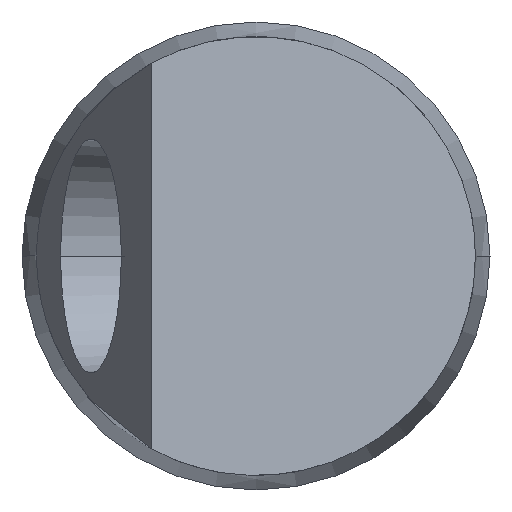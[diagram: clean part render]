
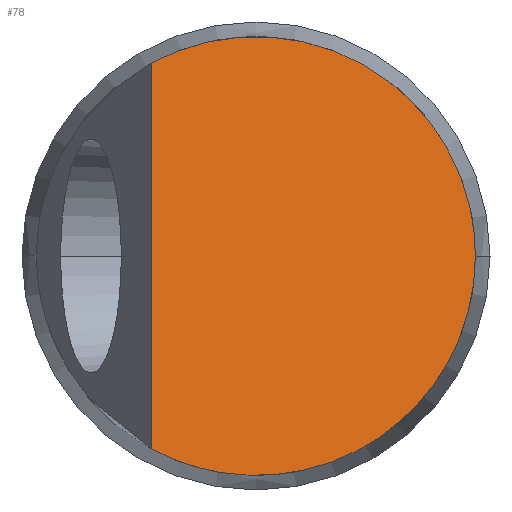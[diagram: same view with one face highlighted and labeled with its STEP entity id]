
A CAD part, left-side view. The second image highlights one B-rep face of the part: STEP entity #78.
In plain terms, the highlighted planar face has unit normal (-0.966, -0.259, 0).
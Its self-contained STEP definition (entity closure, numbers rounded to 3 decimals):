
#78=ADVANCED_FACE('',(#133),#132,.T.);
#132=PLANE('',#363);
#133=FACE_OUTER_BOUND('',#364,.T.);
#360=CARTESIAN_POINT('',(106.854,182.723,-22.889));
#361=DIRECTION('',(-0.966,-0.259,0.));
#362=DIRECTION('',(0.259,-0.966,0.));
#363=AXIS2_PLACEMENT_3D('',#360,#361,#362);
#364=EDGE_LOOP('',(#560,#561,#562));
#560=ORIENTED_EDGE('',*,*,#654,.F.);
#561=ORIENTED_EDGE('',*,*,#655,.F.);
#562=ORIENTED_EDGE('',*,*,#647,.T.);
#647=EDGE_CURVE('',#717,#724,#731,.T.);
#654=EDGE_CURVE('',#779,#724,#780,.T.);
#655=EDGE_CURVE('',#717,#779,#786,.T.);
#717=VERTEX_POINT('',#1019);
#724=VERTEX_POINT('',#1023);
#731=LINE('',#1027,#1028);
#779=VERTEX_POINT('',#1060);
#780=(BOUNDED_CURVE() B_SPLINE_CURVE(2,(#1061,#1062,#1063,#1064,#1065),.UNSPECIFIED.,.F.,.F.) B_SPLINE_CURVE_WITH_KNOTS((3,2,3),(-6.283,-5.606,-4.216),.UNSPECIFIED.) CURVE() GEOMETRIC_REPRESENTATION_ITEM() RATIONAL_B_SPLINE_CURVE((0.886,0.886,1.,0.772,1.)) REPRESENTATION_ITEM('') );
#786=(BOUNDED_CURVE() B_SPLINE_CURVE(2,(#1066,#1067,#1068,#1069,#1070),.UNSPECIFIED.,.F.,.F.) B_SPLINE_CURVE_WITH_KNOTS((3,2,3),(-8.35,-6.96,-6.283),.UNSPECIFIED.) CURVE() GEOMETRIC_REPRESENTATION_ITEM() RATIONAL_B_SPLINE_CURVE((1.,0.772,1.,0.886,0.886)) REPRESENTATION_ITEM('') );
#1019=CARTESIAN_POINT('',(107.567,180.065,13.19));
#1023=CARTESIAN_POINT('',(107.567,180.065,-13.19));
#1027=CARTESIAN_POINT('',(107.567,180.065,13.19));
#1028=VECTOR('',#1029,26.38);
#1029=DIRECTION('',(0.,0.,-1.));
#1060=CARTESIAN_POINT('',(113.5,157.922,0.));
#1061=CARTESIAN_POINT('',(113.5,157.922,0.));
#1062=CARTESIAN_POINT('',(113.5,157.922,-5.382));
#1063=CARTESIAN_POINT('',(112.583,161.344,-9.537));
#1064=CARTESIAN_POINT('',(110.478,169.2,-19.074));
#1065=CARTESIAN_POINT('',(107.567,180.065,-13.19));
#1066=CARTESIAN_POINT('',(107.567,180.065,13.19));
#1067=CARTESIAN_POINT('',(110.478,169.2,19.074));
#1068=CARTESIAN_POINT('',(112.583,161.344,9.537));
#1069=CARTESIAN_POINT('',(113.5,157.922,5.383));
#1070=CARTESIAN_POINT('',(113.5,157.922,0.));
